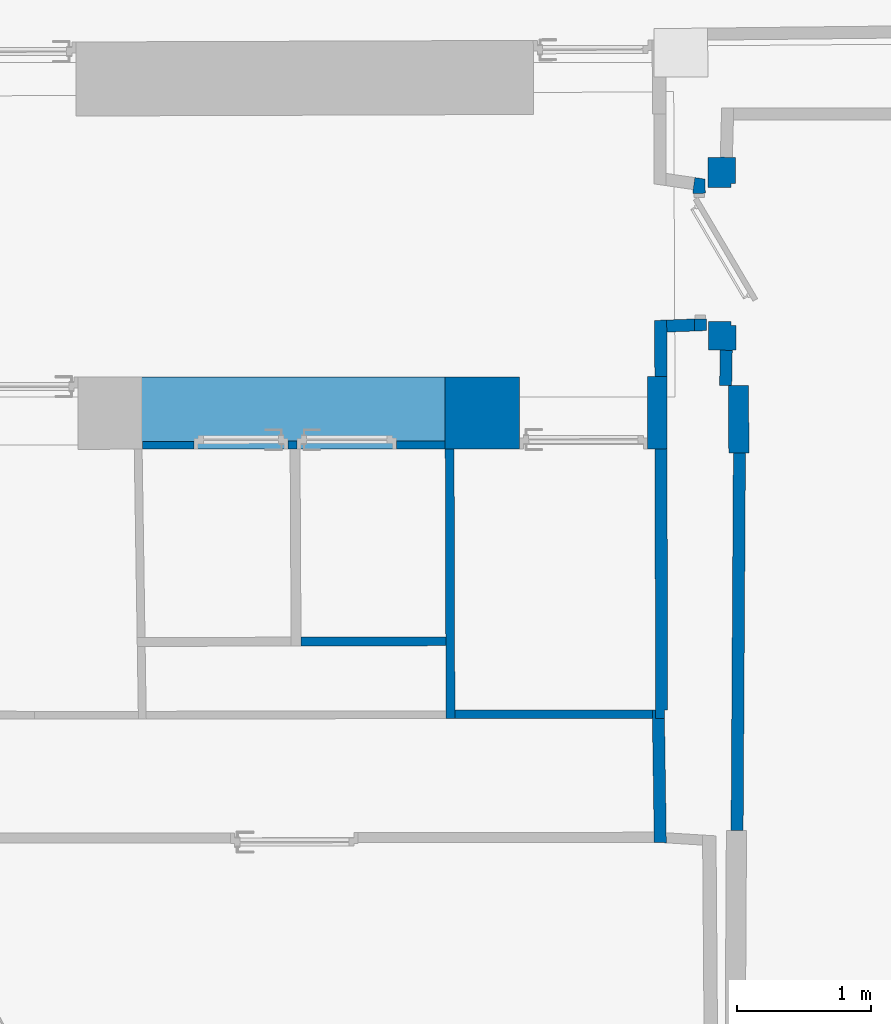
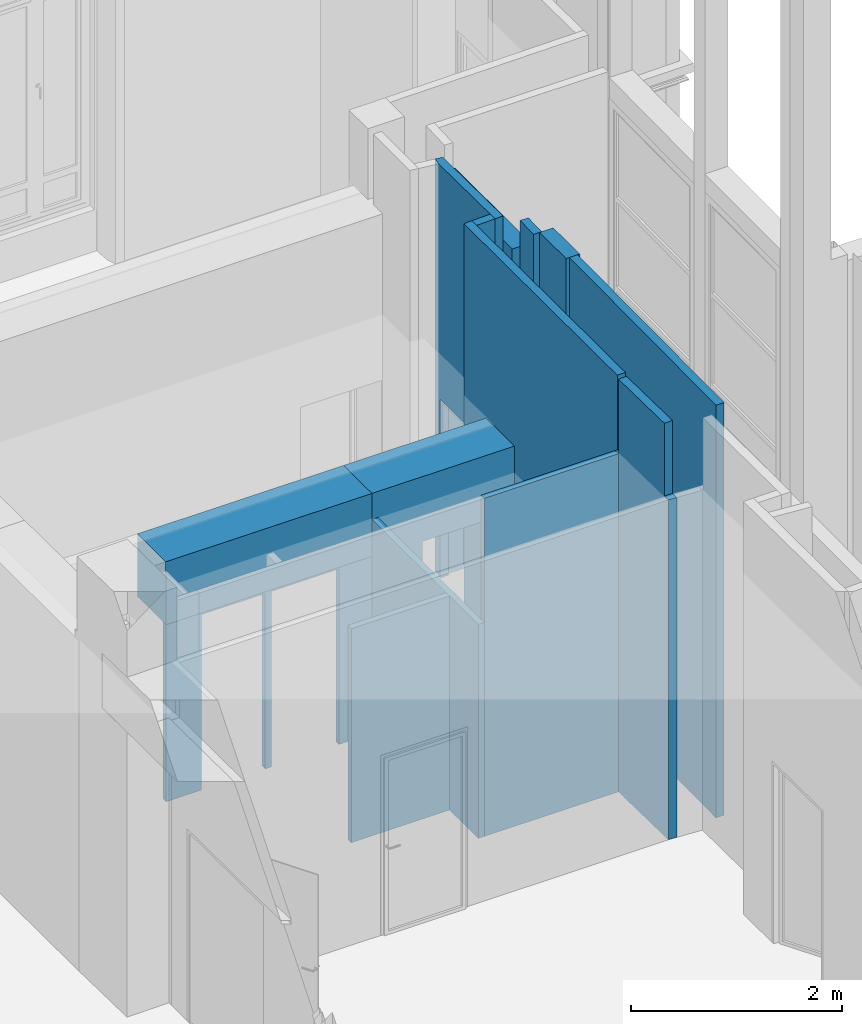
# One storey, part 16 of 97: 14 walls, 5 openings.
"""IFC2X3 building model written with IfcOpenShell, lengths in centimetres."""

import ifcopenshell
import ifcopenshell.guid

model = None  # the IFC model being written
_history = None  # IfcOwnerHistory: only IFC2X3 demands one
_inside = {}  # id of a spatial element -> (the spatial element, [elements in it])
_under = {}  # id of a project, library or spatial element -> (it, [spatial elements below it])
_declared = {}  # id of a project -> (the project, [libraries it declares])
_typed = {}  # id of a type object -> (the type object, [elements of that type])
_made_of = {}  # id of a material, layer set ... -> (it, [elements and type objects made of it])


def new_model(schema):
    """Start an empty IFC model of exactly this schema.

    Asked for "IFC4X3", IfcOpenShell would pick the latest addendum, in which some entities
    have other attributes; the version numbers below select the first issue.
    IFC2X3 requires an IfcOwnerHistory on every rooted entity: one is made here for all.
    """
    global model, _history
    if schema == "IFC4X3":
        model = ifcopenshell.file(schema_version=(4, 3, 0, 0))
    else:
        model = ifcopenshell.file(schema=schema)
    _inside.clear()
    _under.clear()
    _declared.clear()
    _typed.clear()
    _made_of.clear()
    _history = None
    if model.schema == "IFC2X3":
        org = make("IfcOrganization", Name="unknown")
        user = make(
            "IfcPersonAndOrganization",
            ThePerson=make("IfcPerson", FamilyName="unknown"),
            TheOrganization=org,
        )
        app = make(
            "IfcApplication",
            ApplicationDeveloper=org,
            Version="unknown",
            ApplicationFullName="unknown",
            ApplicationIdentifier="unknown",
        )
        _history = make(
            "IfcOwnerHistory",
            OwningUser=user,
            OwningApplication=app,
            ChangeAction="ADDED",
            CreationDate=0,
        )
    return model


def make(cls, **values):
    """One entity of the class cls with the attributes given. An attribute that is None is left unset."""
    return model.create_entity(
        cls, **{name: value for name, value in values.items() if value is not None}
    )


def entity(cls, *values):
    """Any entity or typed value of the class cls, its attributes in the order of the schema. None: left unset."""
    e = model.create_entity(cls)
    for i, value in enumerate(values):
        if value is not None:
            e[i] = value
    return e


def rooted(cls, **values):
    """An entity with a GlobalId (a new one), such as an element, a storey or a relation."""
    return make(cls, GlobalId=ifcopenshell.guid.new(), OwnerHistory=_history, **values)


def si_unit(unit_type, name, prefix=None):
    """IfcSIUnit, for example si_unit("LENGTHUNIT", "METRE", prefix="MILLI")."""
    return make("IfcSIUnit", UnitType=unit_type, Prefix=prefix, Name=name)


def converted_unit(unit_type, name, factor, base, dimensions=None, offset=None):
    """IfcConversionBasedUnit, such as the inch: factor (a typed value) times the base unit."""
    return make(
        "IfcConversionBasedUnit"
        if offset is None
        else "IfcConversionBasedUnitWithOffset",
        ConversionOffset=offset,
        Dimensions=None
        if dimensions is None
        else entity("IfcDimensionalExponents", *dimensions),
        UnitType=unit_type,
        Name=name,
        ConversionFactor=make(
            "IfcMeasureWithUnit", ValueComponent=factor, UnitComponent=base
        ),
    )


def assignment(units):
    """IfcUnitAssignment: the units of a project."""
    return None if units is None else make("IfcUnitAssignment", Units=units)


def point(xyz):
    """IfcCartesianPoint."""
    return None if xyz is None else make("IfcCartesianPoint", Coordinates=xyz)


def direction(xyz):
    """IfcDirection."""
    return None if xyz is None else make("IfcDirection", DirectionRatios=xyz)


def frame(location, z_axis=None, x_axis=None):
    """IfcAxis2Placement3D, a coordinate frame: its origin and axes. An axis left out is left unset."""
    return make(
        "IfcAxis2Placement3D",
        Location=point(location),
        Axis=direction(z_axis),
        RefDirection=direction(x_axis),
    )


def frame_2d(location, x_axis=None):
    """IfcAxis2Placement2D, a coordinate frame in the plane: its origin and x axis."""
    return make(
        "IfcAxis2Placement2D", Location=point(location), RefDirection=direction(x_axis)
    )


def origin():
    """The frame at (0, 0, 0) with its axes left unset."""
    return frame((0.0, 0.0, 0.0))


def origin_with_axes():
    """The frame at (0, 0, 0) with the z axis (0, 0, 1) and the x axis (1, 0, 0) written out."""
    return frame((0.0, 0.0, 0.0), z_axis=(0.0, 0.0, 1.0), x_axis=(1.0, 0.0, 0.0))


def origin_2d_with_axis():
    """The frame at (0, 0) in the plane with the x axis (1, 0) written out."""
    return frame_2d((0.0, 0.0), x_axis=(1.0, 0.0))


def place(relative_to, where):
    """IfcLocalPlacement: puts the frame where relative to a parent placement (None: the world)."""
    return make(
        "IfcLocalPlacement", PlacementRelTo=relative_to, RelativePlacement=where
    )


def context(
    kind, dimensions, precision=None, world=None, true_north=None, identifier=None
):
    """IfcGeometricRepresentationContext, for example the 3D "Model" context."""
    return make(
        "IfcGeometricRepresentationContext",
        ContextIdentifier=identifier,
        ContextType=kind,
        CoordinateSpaceDimension=dimensions,
        Precision=precision,
        WorldCoordinateSystem=world,
        TrueNorth=true_north,
    )


def subcontext(parent, identifier, kind, view, scale=None):
    """IfcGeometricRepresentationSubContext, for example "Body" below "Model"."""
    return make(
        "IfcGeometricRepresentationSubContext",
        ContextIdentifier=identifier,
        ContextType=kind,
        ParentContext=parent,
        TargetScale=scale,
        TargetView=view,
    )


def project(units=None, contexts=None):
    """IfcProject with its units and contexts."""
    return rooted(
        "IfcProject",
        Name="project",
        RepresentationContexts=contexts,
        UnitsInContext=assignment(units),
    )


def spatial(cls, under=None, at=None, **own):
    """A site, building, storey or space (cls), placed at a placement, below another one or the project."""
    s = rooted(cls, ObjectPlacement=at, **own)
    if under is not None:
        _under.setdefault(under.id(), (under, []))[1].append(s)
    return s


def polyline(points):
    """IfcPolyline through the points."""
    return make("IfcPolyline", Points=[point(p) for p in points])


def profile(cls, at=None, kind="AREA", **sizes):
    """A parametric profile (cls). Its sizes go by their IFC names, for example OverallWidth=200.0."""
    return make(cls, ProfileType=kind, Position=at, **sizes)


def rectangle(**sizes):
    """IfcRectangleProfileDef."""
    return profile("IfcRectangleProfileDef", **sizes)


def outline(outer, holes=None, kind="AREA"):
    """IfcArbitraryClosedProfileDef: a profile drawn as a closed curve; with holes, ...WithVoids."""
    if holes is None:
        return make("IfcArbitraryClosedProfileDef", ProfileType=kind, OuterCurve=outer)
    return make(
        "IfcArbitraryProfileDefWithVoids",
        ProfileType=kind,
        OuterCurve=outer,
        InnerCurves=holes,
    )


def extrude(swept, where, along, depth):
    """IfcExtrudedAreaSolid: the profile swept, set in the frame where, extruded along a direction by depth."""
    return make(
        "IfcExtrudedAreaSolid",
        SweptArea=swept,
        Position=where,
        ExtrudedDirection=direction(along),
        Depth=depth,
    )


def clip(a, b, op="DIFFERENCE"):
    """IfcBooleanClippingResult: the solid a cut by the half space b."""
    return make(
        "IfcBooleanClippingResult", Operator=op, FirstOperand=a, SecondOperand=b
    )


def bounded_halfspace(plane, agree, where, boundary):
    """IfcPolygonalBoundedHalfSpace: a half space limited to a polygon's prism."""
    return make(
        "IfcPolygonalBoundedHalfSpace",
        BaseSurface=make("IfcPlane", Position=plane),
        AgreementFlag=agree,
        Position=where,
        PolygonalBoundary=boundary,
    )


def faces_of(points, faces, orient=None, outer=None):
    """IfcFace entities. A face is a list of loops; a loop is a list of indices into points, from 0.

    orient and outer hold one flag for each loop. By default every Orientation is true, the
    first loop of a face is its IfcFaceOuterBound and the others are IfcFaceBound.
    """
    made = []
    for i, loops in enumerate(faces):
        bounds = []
        for j, loop in enumerate(loops):
            is_outer = j == 0 if outer is None else outer[i][j]
            bounds.append(
                make(
                    "IfcFaceOuterBound" if is_outer else "IfcFaceBound",
                    Bound=make("IfcPolyLoop", Polygon=[points[k] for k in loop]),
                    Orientation=True if orient is None else orient[i][j],
                )
            )
        made.append(make("IfcFace", Bounds=bounds))
    return made


def faceted_brep(points, faces, orient=None, outer=None, voids=None):
    """IfcFacetedBrep: a solid bounded by flat faces; with voids (closed shells), ...WithVoids."""
    shared = [point(p) for p in points]
    hull = make("IfcClosedShell", CfsFaces=faces_of(shared, faces, orient, outer))
    if voids is None:
        return make("IfcFacetedBrep", Outer=hull)
    return make(
        "IfcFacetedBrepWithVoids",
        Outer=hull,
        Voids=[
            make(cls, CfsFaces=faces_of(shared, fs, o, b)) for cls, fs, o, b in voids
        ],
    )


def shape(context_of_items, identifier, shape_type, items):
    """IfcShapeRepresentation: the items that make up one representation, for example the "Body"."""
    return make(
        "IfcShapeRepresentation",
        ContextOfItems=context_of_items,
        RepresentationIdentifier=identifier,
        RepresentationType=shape_type,
        Items=items,
    )


def material(Name=None, Category=None):
    """IfcMaterial."""
    return make("IfcMaterial", Name=Name, Category=Category)


def layer(
    of_material, thickness, ventilated=None, Name=None, Category=None, Priority=None
):
    """IfcMaterialLayer: one layer of a wall or slab, of a material (None: an air gap)."""
    return make(
        "IfcMaterialLayer",
        Material=of_material,
        LayerThickness=thickness,
        IsVentilated=ventilated,
        Name=Name,
        Category=Category,
        Priority=Priority,
    )


def layer_set(layers, Name=None):
    """IfcMaterialLayerSet."""
    return make("IfcMaterialLayerSet", MaterialLayers=layers, LayerSetName=Name)


def layer_usage(for_layer_set, set_direction, sense, offset, extent=None):
    """IfcMaterialLayerSetUsage: how a layer set lies in its element."""
    return make(
        "IfcMaterialLayerSetUsage",
        ForLayerSet=for_layer_set,
        LayerSetDirection=set_direction,
        DirectionSense=sense,
        OffsetFromReferenceLine=offset,
        ReferenceExtent=extent,
    )


def made_of(thing, what):
    """Note that an element or type object is made of a material, layer set ...; save() writes the relation."""
    if what is not None:
        _made_of.setdefault(what.id(), (what, []))[1].append(thing)
    return thing


def type_object(cls, material=None, **own):
    """A type object (cls), such as IfcWallType, which elements share."""
    return made_of(rooted(cls, **own), material)


def element(
    cls,
    number,
    at=None,
    inside=None,
    cuts=None,
    type_object=None,
    material=None,
    context=None,
    identifier="Body",
    shape_type=None,
    held_by="IfcProductDefinitionShape",
    body=None,
    shapes=None,
    **own,
):
    """One element of the class cls, such as IfcWall. Its Tag is "e" and its number.

    at: its placement. inside: the storey or other place that contains it. cuts: it is an
    opening in that element (IfcRelVoidsElement). A single representation is given by context,
    identifier, shape_type and body (its items); several are given by shapes. held_by: the class
    of the entity that holds the representations. save() writes the other relations.
    """
    e = rooted(cls, Tag="e%d" % number, ObjectPlacement=at, **own)
    if body is not None:
        shapes = [shape(context, identifier, shape_type, body)]
    if shapes is not None:
        e.Representation = make(held_by, Representations=shapes)
    if inside is not None:
        _inside.setdefault(inside.id(), (inside, []))[1].append(e)
    if cuts is not None:
        rooted(
            "IfcRelVoidsElement", RelatingBuildingElement=cuts, RelatedOpeningElement=e
        )
    if type_object is not None:
        _typed.setdefault(type_object.id(), (type_object, []))[1].append(e)
    return made_of(e, material)


def aggregate(whole, parts):
    """IfcRelAggregates: a whole, such as a stair, and the parts it consists of."""
    return rooted("IfcRelAggregates", RelatingObject=whole, RelatedObjects=parts)


def save(model, path):
    """Write the relations noted so far, then the file.

    IfcRelAggregates (storeys below a building ...), IfcRelContainedInSpatialStructure (elements
    in a storey), IfcRelDefinesByType, IfcRelAssociatesMaterial and IfcRelDeclares: one each for
    every whole, place, type object, material and project.
    """
    for whole, parts in _under.values():
        aggregate(whole, parts)
    for where, things in _inside.values():
        rooted(
            "IfcRelContainedInSpatialStructure",
            RelatedElements=things,
            RelatingStructure=where,
        )
    for kind, things in _typed.values():
        rooted("IfcRelDefinesByType", RelatedObjects=things, RelatingType=kind)
    for what, things in _made_of.values():
        rooted("IfcRelAssociatesMaterial", RelatedObjects=things, RelatingMaterial=what)
    for by, libraries in _declared.values():
        rooted("IfcRelDeclares", RelatingContext=by, RelatedDefinitions=libraries)
    model.write(path)


model = new_model("IFC2X3")

# Units and contexts
model_context = context("Model", 3, precision=0.0001, world=origin(), true_north=direction((0.225632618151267, 0.974212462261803, 0.0)))
body_context = subcontext(model_context, "Body", "Model", "MODEL_VIEW")
footprint_context = subcontext(model_context, "FootPrint", "Model", "MODEL_VIEW")
profile_context = subcontext(model_context, "Profile", "Model", "MODEL_VIEW")
ifc_project = project(units=[si_unit("LENGTHUNIT", "METRE", prefix="CENTI"), si_unit("AREAUNIT", "SQUARE_METRE", prefix="CENTI"), si_unit("VOLUMEUNIT", "CUBIC_METRE", prefix="CENTI"), converted_unit("PLANEANGLEUNIT", "DEGREE", entity("IfcRatioMeasure", 0.0174532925), si_unit("PLANEANGLEUNIT", "RADIAN"), dimensions=[0, 0, 0, 0, 0, 0, 0])], contexts=[model_context])

# Site, building, storey
site_placement = place(None, origin_with_axes())
site = spatial("IfcSite", under=ifc_project, at=site_placement, Name="Default Site", CompositionType="ELEMENT")
building_placement = place(site_placement, origin_with_axes())
building = spatial("IfcBuilding", under=site, at=building_placement, Name="Default Building", CompositionType="ELEMENT")
storey_placement = place(building_placement, origin_with_axes())
storey = spatial("IfcBuildingStorey", under=building, at=storey_placement, Name="Rez-de-chaussée", CompositionType="ELEMENT", Elevation=0.0)

# Walls
ifc_material = material(Name="<aucun>")
ifc_layer_1 = layer(ifc_material, 9.0)
ifc_layer_set_1 = layer_set([ifc_layer_1], Name="default")
ifc_layer_usage_1 = layer_usage(ifc_layer_set_1, "AXIS2", "POSITIVE", -4.5)
wall_type_1 = type_object("IfcWallType", Name="default 90", PredefinedType="NOTDEFINED", material=ifc_layer_set_1)
wall_1_placement = place(storey_placement, frame((881.722137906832, -44.144334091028, 0.0128503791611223), z_axis=(0.0, 0.0, 1.0), x_axis=(0.0176897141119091, 0.99984352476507, 0.0)))
element("IfcWallStandardCase", 1, at=wall_1_placement, inside=storey, type_object=wall_type_1, material=ifc_layer_usage_1, Name="Enveloppe 367625", context=body_context, shape_type="Clipping", body=[
    clip(extrude(rectangle(XDim=26.3196694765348, YDim=8.9999999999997, at=origin_2d_with_axis()), frame((13.1598347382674, 0.0, 0.0), z_axis=(0.0, 0.0, 1.0), x_axis=(1.0, 7.25114412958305e-16, 0.0)), (0.0, 0.0, 1.0), 477.795358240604), bounded_halfspace(frame((26.2980305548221, 4.50000000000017, 447.782507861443), z_axis=(0.0, 0.0, 1.0), x_axis=(1.0, -7.78228176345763e-13, 0.0)), True, frame((26.2980305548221, 4.50000000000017, 447.782507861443), z_axis=(0.0, 0.0, 1.0), x_axis=(1.0, 0.0, 0.0)), polyline([(5.55111512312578e-15, -8.99999999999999), (1.11022302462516e-14, 1.77635683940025e-13), (0.0216389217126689, 1.77635683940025e-13), (0.0216389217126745, -8.99999999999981), (5.55111512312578e-15, -8.99999999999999)]))),
])
ifc_layer_usage_2 = layer_usage(ifc_layer_set_1, "AXIS2", "POSITIVE", -4.5)
wall_2_placement = place(storey_placement, frame((837.229817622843, 0.138419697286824, 0.0128503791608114), z_axis=(0.0, 0.0, 1.0), x_axis=(0.999283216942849, 0.0378556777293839, 0.0)))
element("IfcWallStandardCase", 2, at=wall_2_placement, inside=storey, type_object=wall_type_1, material=ifc_layer_usage_2, Name="Enveloppe 721798", context=body_context, shape_type="SweptSolid", body=[
    extrude(outline(polyline([(0.831867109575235, 4.49999999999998), (0.51223675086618, -4.50000000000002), (21.1217969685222, -4.50000000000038), (21.3808275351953, 4.49999999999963), (0.831867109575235, 4.49999999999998)])), origin_with_axes(), (0.0, 0.0, 1.0), 477.795358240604),
])

# Wall, opening
ifc_layer_usage_3 = layer_usage(ifc_layer_set_1, "AXIS2", "POSITIVE", -4.5)
wall_3_placement = place(storey_placement, frame((862.964533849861, 1.11332361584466, 0.0128503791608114), z_axis=(0.0, 0.0, 1.0), x_axis=(-0.00909136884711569, 0.999958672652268, 0.0)))
wall_3 = element("IfcWallStandardCase", 3, at=wall_3_placement, inside=storey, type_object=wall_type_1, material=ifc_layer_usage_3, Name="Enveloppe 720961", context=body_context, shape_type="SweptSolid", body=[
    extrude(outline(polyline([(100.659972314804, 4.50000000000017), (-4.63137869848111, 4.49999999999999), (-4.37234813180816, -4.49999999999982), (108.374289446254, -4.49999999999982), (109.554095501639, 3.12356520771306), (100.659972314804, 4.50000000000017)])), origin_with_axes(), (0.0, 0.0, 1.0), 477.795358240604),
])
opening_1_placement = place(wall_3_placement, frame((4.40398725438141, 0.0, 0.0), z_axis=(0.0, 0.0, 1.0), x_axis=(1.0, -1.54390389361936e-16, 0.0)))
cartesian_point_1 = entity("IfcCartesianPoint", [6.93889390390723e-16, 0.0, 207.0])
cartesian_point_2 = entity("IfcCartesianPoint", [93.4553855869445, 4.49999999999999])
element("IfcOpeningElement", 4, at=opening_1_placement, cuts=wall_3, Name="4294966351_11", ObjectType="Opening", shapes=[
    shape(body_context, "Body", "SweptSolid", [extrude(outline(polyline([(0.0, 207.0), (0.0, 0.0), (93.4553855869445, 0.0), (93.4553855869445, 207.0), (0.0, 207.0)])), frame((0.0, 14.5, 0.0), z_axis=(0.0, -1.0, 0.0), x_axis=(1.0, 0.0, 0.0)), (0.0, 0.0, 1.0), 29.0)]),
    shape(profile_context, "Profile", "GeometricCurveSet", [entity("IfcGeometricCurveSet", [entity("IfcPolyline", [cartesian_point_1, entity("IfcCartesianPoint", [6.93889390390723e-16, 0.0, 0.0]), entity("IfcCartesianPoint", [93.4553855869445, 0.0, 0.0]), entity("IfcCartesianPoint", [93.4553855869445, 0.0, 207.0]), cartesian_point_1])])]),
    shape(footprint_context, "FootPrint", "GeometricCurveSet", [entity("IfcGeometricCurveSet", [entity("IfcPolyline", [cartesian_point_2, entity("IfcCartesianPoint", [0.0, 4.49999999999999]), entity("IfcCartesianPoint", [1.38777878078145e-15, -4.49999999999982]), entity("IfcCartesianPoint", [93.4553855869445, -4.49999999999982]), cartesian_point_2])])]),
])

# Walls
ifc_layer_usage_4 = layer_usage(ifc_layer_set_1, "AXIS2", "POSITIVE", -4.5)
wall_4_placement = place(storey_placement, frame((832.985224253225, -376.510856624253, 0.0128503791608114), z_axis=(0.0, 0.0, 1.0), x_axis=(-0.0150080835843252, 0.999887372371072, 0.0)))
element("IfcWallStandardCase", 5, at=wall_4_placement, inside=storey, type_object=wall_type_1, material=ifc_layer_usage_4, Name="Enveloppe 11562", context=body_context, shape_type="Clipping", body=[
    clip(clip(clip(extrude(outline(polyline([(91.0959762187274, 4.50000000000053), (-7.43298393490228, 4.50000000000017), (-7.46210639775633, 2.35132997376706), (-7.99660458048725, -4.49999999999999), (84.8884152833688, -4.49999999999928), (84.8884152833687, 2.11986726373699), (91.0625123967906, 2.04180099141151), (91.0959762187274, 4.50000000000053)])), origin_with_axes(), (0.0, 0.0, 1.0), 477.795358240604), bounded_halfspace(frame((84.8884152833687, 2.11986726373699, 391.395358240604), z_axis=(0.0, 0.0, 1.0), x_axis=(1.10883524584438e-14, -1.0, 0.0)), True, frame((84.8884152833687, 2.11986726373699, 391.395358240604), z_axis=(0.0, 0.0, 1.0), x_axis=(1.0, 0.0, 0.0)), polyline([(-0.172363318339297, -6.61986726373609), (-0.172363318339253, 0.00217938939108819), (4.44089209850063e-14, 0.0), (1.33226762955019e-13, -6.61986726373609), (-0.172363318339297, -6.61986726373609)]))), bounded_halfspace(frame((91.0959762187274, 4.50000000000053, 391.395358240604), z_axis=(0.0, 0.0, -1.0), x_axis=(-1.0, -5.93275428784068e-16, 0.0)), True, frame((91.0959762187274, 4.50000000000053, 391.395358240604), z_axis=(0.0, 0.0, 1.0), x_axis=(1.0, 0.0, 0.0)), polyline([(-6.20756093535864, -2.38013273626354), (-0.0334638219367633, -2.45819900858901), (4.44089209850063e-14, 0.0), (-6.20756093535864, 0.0), (-6.20756093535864, -2.38013273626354)]))), bounded_halfspace(frame((-7.46210639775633, 2.35132997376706, 393.395358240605), z_axis=(0.0, 0.0, -1.0), x_axis=(-0.0777774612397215, -0.996970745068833, 0.0)), True, frame((-7.46210639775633, 2.35132997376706, 393.395358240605), z_axis=(0.0, 0.0, 1.0), x_axis=(1.0, 0.0, 0.0)), polyline([(-0.53449818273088, -6.85132997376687), (7.46210639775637, -6.85132997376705), (7.46210639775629, 2.14867002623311), (0.029122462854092, 2.14867002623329), (4.44089209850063e-14, 1.77635683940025e-13), (-0.53449818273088, -6.85132997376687)]))),
])
ifc_layer_usage_5 = layer_usage(ifc_layer_set_1, "AXIS2", "POSITIVE", -4.5)
wall_5_placement = place(storey_placement, frame((890.266698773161, -375.240380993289, 0.0128503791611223), z_axis=(0.0, 0.0, 1.0), x_axis=(0.00615086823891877, 0.999981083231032, 0.0)))
element("IfcWallStandardCase", 6, at=wall_5_placement, inside=storey, type_object=wall_type_1, material=ifc_layer_usage_5, Name="Enveloppe 366967", context=body_context, shape_type="Clipping", body=[
    clip(extrude(outline(polyline([(-4.44089209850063e-14, 4.50000000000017), (0.0, -4.50000000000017), (281.114043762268, -4.49999999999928), (281.004879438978, 4.50000000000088), (-4.44089209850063e-14, 4.50000000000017)])), origin_with_axes(), (0.0, 0.0, 1.0), 477.795358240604), bounded_halfspace(frame((0.0, -4.50000000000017, 447.782507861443), z_axis=(0.0, 0.0, 1.0), x_axis=(0.0, 1.0, 0.0)), True, frame((0.0, -4.50000000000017, 447.782507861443), z_axis=(0.0, 0.0, 1.0), x_axis=(1.0, 0.0, 0.0)), polyline([(0.0, -1.77635683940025e-13), (-8.88178419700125e-14, 9.00000000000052), (0.095518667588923, 9.00000000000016), (0.0955186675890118, 3.5527136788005e-13), (0.0, -1.77635683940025e-13)]))),
])
ifc_layer_usage_6 = layer_usage(ifc_layer_set_1, "AXIS2", "POSITIVE", -4.5)
wall_6_placement = place(storey_placement, frame((834.076966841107, -285.478600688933, 0.0128503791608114), z_axis=(0.0, 0.0, 1.0), x_axis=(-0.00236515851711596, 0.999997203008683, 0.0)))
element("IfcWallStandardCase", 7, at=wall_6_placement, inside=storey, type_object=wall_type_1, material=ifc_layer_usage_6, Name="Enveloppe 10338", context=body_context, shape_type="Clipping", body=[
    clip(clip(clip(clip(extrude(outline(polyline([(289.815823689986, 4.49999999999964), (233.07623812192, 4.49999999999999), (-6.34696676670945, 4.50040769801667), (-6.26324420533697, -2.12151736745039), (4.44089209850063e-14, -2.04232390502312), (8.88178419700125e-14, -4.49999999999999), (233.07623812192, -4.49999999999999), (290.135454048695, -4.50000000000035), (289.815823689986, 4.49999999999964)])), frame((0.0, 0.0, 2.71050543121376e-18), z_axis=(0.0, 0.0, 1.0), x_axis=(1.0, 0.0, 0.0)), (0.0, 0.0, 1.0), 477.795358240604), bounded_halfspace(frame((233.07623812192, 4.49999999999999, 277.995358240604), z_axis=(0.0, 0.0, 1.0), x_axis=(-2.46677678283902e-15, -1.0, 0.0)), True, frame((233.07623812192, 4.49999999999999, 277.995358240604), z_axis=(0.0, 0.0, 1.0), x_axis=(1.0, 0.0, 0.0)), polyline([(-38.7516481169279, -8.99999999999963), (-38.738455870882, 1.77635683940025e-13), (0.0, 0.0), (0.0, -8.99999999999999), (-38.7516481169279, -8.99999999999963)]))), bounded_halfspace(frame((233.07623812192, 4.49999999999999, 277.995358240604), z_axis=(0.0, 0.0, 1.0), x_axis=(1.0, -1.47885176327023e-15, 0.0)), True, frame((233.07623812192, 4.49999999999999, 277.995358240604), z_axis=(0.0, 0.0, 1.0), x_axis=(1.0, 0.0, 0.0)), polyline([(-4.44089209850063e-14, -8.99999999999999), (0.0, 0.0), (14.8790391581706, 0.0), (14.8658469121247, -9.00000000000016), (-4.44089209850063e-14, -8.99999999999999)]))), bounded_halfspace(frame((0.0, 4.49999999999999, 391.395358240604), z_axis=(0.0, 0.0, -1.0), x_axis=(-1.0, 4.00764491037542e-15, 0.0)), True, frame((0.0, 4.49999999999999, 391.395358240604), z_axis=(0.0, 0.0, 1.0), x_axis=(1.0, 0.0, 0.0)), polyline([(-6.17459063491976, 0.0), (-6.09089466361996, -6.61933815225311), (-4.44089209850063e-14, -6.54232390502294), (-4.44089209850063e-14, 0.0), (-6.17459063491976, 0.0)]))), bounded_halfspace(frame((-6.26324420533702, -2.12151736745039, 391.395358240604), z_axis=(0.0, 0.0, -1.0), x_axis=(0.999920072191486, 0.0126431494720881, 0.0)), True, frame((-6.26324420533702, -2.12151736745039, 391.395358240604), z_axis=(0.0, 0.0, 1.0), x_axis=(1.0, 0.0, 0.0)), polyline([(-0.0837235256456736, 6.62151736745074), (0.0, 0.0), (0.172349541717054, 0.00217921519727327), (0.088653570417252, 6.62151736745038), (-0.0837235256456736, 6.62151736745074)]))),
])
ifc_layer_2 = layer(ifc_material, 15.0)
ifc_layer_set_2 = layer_set([ifc_layer_2], Name="default")
ifc_layer_usage_7 = layer_usage(ifc_layer_set_2, "AXIS2", "POSITIVE", -7.5)
wall_type_2 = type_object("IfcWallType", Name="default 150", PredefinedType="NOTDEFINED", material=ifc_layer_set_2)
wall_7_placement = place(storey_placement, frame((891.563778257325, -94.1888166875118, 0.0128503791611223), z_axis=(0.0, 0.0, 1.0), x_axis=(-0.00597783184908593, 0.99998213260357, 0.0)))
element("IfcWallStandardCase", 8, at=wall_7_placement, inside=storey, type_object=wall_type_2, material=ifc_layer_usage_7, Name="Enveloppe 367336", context=body_context, shape_type="SweptSolid", body=[
    extrude(outline(polyline([(50.054072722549, 7.50000000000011), (-2.22044604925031e-14, 7.49999999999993), (4.44089209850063e-14, -7.49999999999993), (49.9959217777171, -7.49999999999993), (49.9959217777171, 5.04356739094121), (50.054072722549, 7.50000000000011)])), origin_with_axes(), (0.0, 0.0, 1.0), 477.795358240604),
])

# Wall, opening
ifc_layer_3 = layer(ifc_material, 20.5)
ifc_layer_set_3 = layer_set([ifc_layer_3], Name="default")
ifc_layer_usage_8 = layer_usage(ifc_layer_set_3, "AXIS2", "POSITIVE", -10.25)
wall_type_3 = type_object("IfcWallType", Name="default 205", PredefinedType="NOTDEFINED", material=ifc_layer_set_3)
wall_8_placement = place(storey_placement, frame((879.193913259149, -17.7672531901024, 0.0128503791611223), z_axis=(0.0, 0.0, 1.0), x_axis=(-0.00236515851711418, 0.999997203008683, 0.0)))
wall_8 = element("IfcWallStandardCase", 9, at=wall_8_placement, inside=storey, type_object=wall_type_3, material=ifc_layer_usage_8, Name="Enveloppe 367501", context=body_context, shape_type="SweptSolid", body=[
    extrude(outline(polyline([(143.378647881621, 10.2500000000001), (1.11022302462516e-14, 10.2500000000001), (5.55111512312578e-15, 1.50587078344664), (-0.180490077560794, -7.49231921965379), (0.000344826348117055, -7.49594039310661), (1.11022302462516e-14, -10.2499999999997), (143.378647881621, -10.2499999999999), (143.378647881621, -7.91011115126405), (143.639640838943, 1.0861037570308), (143.378647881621, 1.09367553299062), (143.378647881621, 10.2500000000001)])), origin_with_axes(), (0.0, 0.0, 1.0), 447.782507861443),
])
opening_2_placement = place(wall_8_placement, frame((18.4116374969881, -1.13686837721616e-13, -1.11022302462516e-14), z_axis=(0.0, 0.0, 1.0), x_axis=(-1.0, 6.85215773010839e-17, 0.0)))
cartesian_point_3 = entity("IfcCartesianPoint", [-1.45716771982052e-14, 0.0, 210.890048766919])
cartesian_point_4 = entity("IfcCartesianPoint", [-105.694207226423, -10.2500000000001])
element("IfcOpeningElement", 10, at=opening_2_placement, cuts=wall_8, Name="Baie 722380", ObjectType="Opening", shapes=[
    shape(body_context, "Body", "Brep", [faceted_brep([(-3.0000000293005, -30.2499996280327, 210.890055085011), (-102.694204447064, -30.2499996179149, 210.890055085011), (-102.694204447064, -30.2499996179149, -4.6290749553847e-10), (-3.0000000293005, -30.2499996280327, -4.6290749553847e-10), (-7.10717075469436e-09, 30.2499901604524, -4.6290749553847e-10), (-105.694204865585, 30.2499901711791, -4.6290749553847e-10), (-105.694204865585, 30.2499901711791, 210.890055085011), (-7.10717075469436e-09, 30.2499901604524, 210.890055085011), (-3.00000002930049, -30.2499996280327, -4.6290749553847e-10), (-3.00000002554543, 6.74999704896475, -4.62907495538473e-10), (-3.00000002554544, 6.74999704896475, 210.890055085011), (-2.9999999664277, 6.74999704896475, 210.890055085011), (-2.9999999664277, 6.74999704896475, -4.6290749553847e-10), (-1.14963519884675e-07, 6.74999704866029, -4.62907495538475e-10), (-1.14963519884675e-07, 6.74999704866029, 210.890055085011), (-1.14963523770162e-07, 6.74995876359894, 210.890055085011), (-1.14963512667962e-07, 6.74995876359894, -4.6290749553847e-10), (-1.12578533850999e-07, 30.2499901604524, -4.62907495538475e-10), (-1.12578544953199e-07, 30.2499901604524, 210.890055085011), (-102.694204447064, -30.2499553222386, -4.6290749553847e-10), (-102.694205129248, 6.75004135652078, -4.6290749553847e-10), (-105.694210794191, 6.74998428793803, -4.6290749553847e-10), (-105.694204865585, 30.2500156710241, -4.6290749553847e-10), (-1.14963523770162e-07, 6.74995876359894, -4.6290749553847e-10), (-102.694204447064, -30.2499553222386, 210.890055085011), (-102.694204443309, 6.75004135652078, 210.890055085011), (-102.694204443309, 6.75004135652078, -4.62907495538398e-10), (-102.694205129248, 6.75004135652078, 210.890055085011), (-105.694210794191, 6.75004135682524, 210.890055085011), (-105.694210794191, 6.75004135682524, -4.62907495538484e-10), (-105.694210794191, 6.74998428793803, 210.890055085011), (-105.694210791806, 30.2500156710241, 210.890055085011), (-105.694210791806, 30.2500156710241, -4.62907495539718e-10), (-105.694204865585, 30.2500156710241, 210.890055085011)], [[[0, 1, 2, 3]], [[4, 5, 6, 7]], [[0, 8, 9, 10]], [[11, 12, 13, 14]], [[15, 16, 17, 18]], [[3, 19, 20, 21, 22, 4, 23, 12]], [[19, 24, 25, 26]], [[20, 27, 28, 29]], [[21, 30, 31, 32]], [[11, 15, 7, 33, 30, 27, 24, 0]]])]),
    shape(profile_context, "Profile", "GeometricCurveSet", [entity("IfcGeometricCurveSet", [entity("IfcPolyline", [cartesian_point_3, entity("IfcCartesianPoint", [-6.93889390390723e-16, 0.0, 0.0]), entity("IfcCartesianPoint", [-105.694207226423, 0.0, 0.0]), entity("IfcCartesianPoint", [-105.694207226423, 0.0, 210.890048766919]), cartesian_point_3])])]),
    shape(footprint_context, "FootPrint", "GeometricCurveSet", [entity("IfcGeometricCurveSet", [entity("IfcPolyline", [cartesian_point_4, entity("IfcCartesianPoint", [0.0, -10.2499999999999]), entity("IfcCartesianPoint", [-1.38777878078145e-15, 10.2499999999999]), entity("IfcCartesianPoint", [-105.694207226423, 10.2499999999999]), cartesian_point_4])])]),
])

# Walls
ifc_layer_4 = layer(ifc_material, 6.6175895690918)
ifc_layer_set_4 = layer_set([ifc_layer_4], Name="default")
ifc_layer_usage_9 = layer_usage(ifc_layer_set_4, "AXIS2", "POSITIVE", -3.309)
wall_type_4 = type_object("IfcWallType", Name="default 66.175895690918", PredefinedType="NOTDEFINED", material=ifc_layer_set_4)
wall_9_placement = place(storey_placement, frame((562.046593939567, -234.665585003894, 0.0128503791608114), z_axis=(0.0, 0.0, 1.0), x_axis=(0.99999741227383, 0.00227496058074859, 0.0)))
element("IfcWallStandardCase", 11, at=wall_9_placement, inside=storey, type_object=wall_type_4, material=ifc_layer_usage_9, Name="Enveloppe 3314", context=body_context, shape_type="SweptSolid", body=[
    extrude(outline(polyline([(3.66109808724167, 3.30879467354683), (3.68100581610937, -3.30879467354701), (111.407412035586, -3.30879467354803), (111.403592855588, 3.30879467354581), (3.66109808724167, 3.30879467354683)])), frame((0.0, 0.0, -2.71050543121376e-18), z_axis=(0.0, 0.0, 1.0), x_axis=(1.0, 0.0, 0.0)), (0.0, 0.0, 1.0), 247.861599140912),
])
ifc_layer_usage_10 = layer_usage(ifc_layer_set_4, "AXIS2", "POSITIVE", -3.309)
wall_10_placement = place(storey_placement, frame((676.908342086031, -286.207687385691, 0.0128503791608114), z_axis=(0.0, 0.0, 1.0), x_axis=(-0.00285208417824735, 0.999995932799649, 0.0)))
element("IfcWallStandardCase", 12, at=wall_10_placement, inside=storey, type_object=wall_type_4, material=ifc_layer_usage_10, Name="Enveloppe 5701", context=body_context, shape_type="SweptSolid", body=[
    extrude(outline(polyline([(194.925545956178, 3.30879467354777), (55.2139883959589, 3.30879467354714), (-5.74675030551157, 3.30879467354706), (-5.75638384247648, -3.30879467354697), (55.2139883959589, -3.3087946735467), (194.912623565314, -3.30879467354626), (194.925545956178, 3.30879467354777)])), frame((0.0, 0.0, -2.71050543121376e-18), z_axis=(0.0, 0.0, 1.0), x_axis=(1.0, 0.0, 0.0)), (0.0, 0.0, 1.0), 247.861599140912),
])
ifc_layer_5 = layer(ifc_material, 6.25682640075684)
ifc_layer_set_5 = layer_set([ifc_layer_5], Name="default")
ifc_layer_usage_11 = layer_usage(ifc_layer_set_5, "AXIS2", "POSITIVE", -3.128)
wall_type_5 = type_object("IfcWallType", Name="default 62.5682640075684", PredefinedType="NOTDEFINED", material=ifc_layer_set_5)
wall_11_placement = place(storey_placement, frame((680.22852135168, -288.826201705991, 0.0128503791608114), z_axis=(0.0, 0.0, 1.0), x_axis=(0.999999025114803, 0.001396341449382, 0.0)))
element("IfcWallStandardCase", 13, at=wall_11_placement, inside=storey, type_object=wall_type_5, material=ifc_layer_usage_11, Name="Enveloppe 3415", context=body_context, shape_type="SweptSolid", body=[
    extrude(outline(polyline([(-0.00845703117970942, 3.1284249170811), (1.26991750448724e-09, -3.128412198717), (146.97897225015, -3.12841206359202), (146.8945452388, 3.12841310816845), (-0.00845703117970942, 3.1284249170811)])), origin_with_axes(), (0.0, 0.0, 1.0), 391.395358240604),
])

# Wall, opening
ifc_layer_6 = layer(ifc_material, 53.6174377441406)
ifc_layer_set_6 = layer_set([ifc_layer_6], Name="default")
ifc_layer_usage_12 = layer_usage(ifc_layer_set_6, "AXIS2", "POSITIVE", -26.809)
wall_type_6 = type_object("IfcWallType", Name="default 536.174377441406", PredefinedType="NOTDEFINED", material=ifc_layer_set_6)
wall_12_placement = place(storey_placement, frame((673.019506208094, -64.4836633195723, 0.0128503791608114), z_axis=(0.0, 0.0, 1.0), x_axis=(0.99999959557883, 0.000899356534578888, 0.0)))
wall_12 = element("IfcWallStandardCase", 14, at=wall_12_placement, inside=storey, type_object=wall_type_6, material=ifc_layer_usage_12, Name="Enveloppe 3292", context=body_context, shape_type="Clipping", body=[
    clip(clip(clip(extrude(outline(polyline([(-0.204700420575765, -26.808534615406), (165.073795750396, -26.8087187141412), (164.995203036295, 26.8087187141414), (-0.104700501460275, 26.8088128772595), (-0.104700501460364, -20.9587114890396), (-0.204700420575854, -20.9586215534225), (-0.204700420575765, -26.808534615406)])), origin_with_axes(), (0.0, 0.0, 1.0), 277.995358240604), bounded_halfspace(frame((-0.104700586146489, 26.8087187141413, 205.0), z_axis=(0.0, 0.0, 1.0), x_axis=(1.0, -2.71221847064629e-14, 0.0)), True, frame((-0.104700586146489, 26.8087187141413, 205.0), z_axis=(0.0, 0.0, 1.0), x_axis=(1.0, 0.0, 0.0)), polyline([(0.0, -47.7675243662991), (-8.88178419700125e-14, 5.55111512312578e-15), (0.104700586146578, 1.11022302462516e-14), (0.104700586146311, -47.7675243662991), (0.0, -47.7675243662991)]))), bounded_halfspace(frame((-0.204700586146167, -26.8087187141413, 205.0), z_axis=(0.0, 0.0, -1.0), x_axis=(1.0, 2.48921976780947e-15, 0.0)), True, frame((-0.204700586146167, -26.8087187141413, 205.0), z_axis=(0.0, 0.0, 1.0), x_axis=(1.0, 0.0, 0.0)), polyline([(0.0, -1.11022302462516e-14), (0.0999999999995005, -2.22044604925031e-14), (0.0999999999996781, 5.84991306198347), (0.0, 5.84991306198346), (0.0, -1.11022302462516e-14)]))), bounded_halfspace(frame((-0.104700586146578, -26.8087187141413, 247.861599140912), z_axis=(0.0, 0.0, -1.0), x_axis=(1.0, -3.85748290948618e-15, 0.0)), True, frame((-0.104700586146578, -26.8087187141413, 247.861599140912), z_axis=(0.0, 0.0, 1.0), x_axis=(1.0, 0.0, 0.0)), polyline([(-8.88178419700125e-14, -2.22044604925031e-14), (0.104700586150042, -1.11022302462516e-14), (0.104700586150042, 53.6174374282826), (0.0, 53.6174374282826), (-8.88178419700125e-14, -2.22044604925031e-14)]))),
])
opening_3_placement = place(wall_12_placement, frame((55.1662615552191, 4.2632564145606e-14, -3.99680288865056e-13), z_axis=(0.0, 0.0, 1.0), x_axis=(1.0, 6.44449771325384e-16, 0.0)))
cartesian_point_5 = entity("IfcCartesianPoint", [0.0, 0.0, 203.0])
cartesian_point_6 = entity("IfcCartesianPoint", [95.3793684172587, 26.8087187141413])
element("IfcOpeningElement", 15, at=opening_3_placement, cuts=wall_12, Name="4294966354_11", ObjectType="Opening", shapes=[
    shape(body_context, "Body", "SweptSolid", [extrude(outline(polyline([(0.0, 203.0), (0.0, 0.0), (95.3793684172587, 0.0), (95.3793684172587, 203.0), (0.0, 203.0)])), frame((0.0, 36.8087187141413, 0.0), z_axis=(0.0, -1.0, 0.0), x_axis=(1.0, 0.0, 0.0)), (0.0, 0.0, 1.0), 73.6174374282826)]),
    shape(profile_context, "Profile", "GeometricCurveSet", [entity("IfcGeometricCurveSet", [entity("IfcPolyline", [cartesian_point_5, entity("IfcCartesianPoint", [0.0, 0.0, 0.0]), entity("IfcCartesianPoint", [95.3793684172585, 0.0, 0.0]), entity("IfcCartesianPoint", [95.3793684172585, 0.0, 203.0]), cartesian_point_5])])]),
    shape(footprint_context, "FootPrint", "GeometricCurveSet", [entity("IfcGeometricCurveSet", [entity("IfcPolyline", [cartesian_point_6, entity("IfcCartesianPoint", [0.0, 26.8087187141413]), entity("IfcCartesianPoint", [0.0, -26.8087187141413]), entity("IfcCartesianPoint", [95.3793684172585, -26.8087187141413]), cartesian_point_6])])]),
])

# Wall
ifc_layer_usage_13 = layer_usage(ifc_layer_set_6, "AXIS2", "POSITIVE", -26.809)
wall_13_placement = place(storey_placement, frame((446.654847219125, -64.687245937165, 205.012850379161), z_axis=(0.0, 0.0, 1.0), x_axis=(0.99999959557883, 0.000899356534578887, 0.0)))
element("IfcWallStandardCase", 16, at=wall_13_placement, inside=storey, type_object=wall_type_6, material=ifc_layer_usage_13, Name="Enveloppe 31373", context=body_context, shape_type="Clipping", body=[
    clip(clip(extrude(outline(polyline([(114.493201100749, 26.8087187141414), (110.70460293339, 26.8087187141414), (0.374086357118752, 26.8090833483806), (0.374086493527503, -26.8082024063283), (110.704603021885, -26.8086203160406), (114.493201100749, -26.8087187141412), (226.364750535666, -26.8087187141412), (226.364750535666, 26.8087187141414), (114.493201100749, 26.8087187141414)])), frame((0.0, 0.0, -8.88178419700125e-14), z_axis=(0.0, 0.0, 1.0), x_axis=(1.0, 0.0, 0.0)), (0.0, 0.0, 1.0), 72.9953582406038), bounded_halfspace(frame((0.374086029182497, 26.8087187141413, 62.7953582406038), z_axis=(0.0, 0.0, 1.0), x_axis=(1.0, -2.12763834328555e-15, 0.0)), True, frame((0.374086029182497, 26.8087187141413, 62.7953582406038), z_axis=(0.0, 0.0, 1.0), x_axis=(1.0, 0.0, 0.0)), polyline([(8.88178419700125e-14, -53.6174374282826), (8.88178419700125e-14, -5.55111512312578e-15), (0.405439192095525, 0.0), (0.405439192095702, -53.6174374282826), (8.88178419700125e-14, -53.6174374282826)]))), bounded_halfspace(frame((226.364750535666, 26.8087187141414, 42.8615991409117), z_axis=(0.0, 0.0, 1.0), x_axis=(4.33680868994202e-19, -1.0, 0.0)), True, frame((226.364750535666, 26.8087187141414, 42.8615991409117), z_axis=(0.0, 0.0, 1.0), x_axis=(1.0, 0.0, 0.0)), polyline([(-0.104700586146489, -53.6174374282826), (-0.104700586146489, -5.55111512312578e-15), (8.88178419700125e-14, 0.0), (8.88178419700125e-14, -53.6174374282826), (-0.104700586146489, -53.6174374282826)]))),
])

# Wall, openings
ifc_layer_7 = layer(ifc_material, 5.84991302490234)
ifc_layer_set_7 = layer_set([ifc_layer_7], Name="default")
ifc_layer_usage_14 = layer_usage(ifc_layer_set_7, "AXIS2", "POSITIVE", -2.925)
wall_type_7 = type_object("IfcWallType", Name="default 58.4991302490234", PredefinedType="NOTDEFINED", material=ifc_layer_set_7)
wall_14_placement = place(storey_placement, frame((447.451643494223, -88.5703011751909, 0.0128503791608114), z_axis=(0.0, 0.0, 1.0), x_axis=(0.99999959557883, 0.000899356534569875, 0.0)))
wall_14 = element("IfcWallStandardCase", 17, at=wall_14_placement, inside=storey, type_object=wall_type_7, material=ifc_layer_usage_14, Name="Enveloppe 3504", context=body_context, shape_type="SweptSolid", body=[
    extrude(outline(polyline([(110.0386958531, 2.92495653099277), (0.172855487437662, 2.92495653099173), (0.17285548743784, -2.92495653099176), (110.0386958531, -2.9249565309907), (225.384733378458, -2.9249565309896), (225.384733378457, 2.92495653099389), (110.0386958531, 2.92495653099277)])), origin_with_axes(), (0.0, 0.0, 1.0), 205.0),
])
opening_4_placement = place(wall_14_placement, frame((115.408046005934, 1.12265752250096e-12, -3.10862446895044e-13), z_axis=(0.0, 0.0, 1.0), x_axis=(1.0, 9.58835875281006e-15, 0.0)))
cartesian_point_7 = entity("IfcCartesianPoint", [0.0, 0.0, 203.0])
cartesian_point_8 = entity("IfcCartesianPoint", [74.0000000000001, 2.92495653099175])
element("IfcOpeningElement", 18, at=opening_4_placement, cuts=wall_14, Name="4294966347_11", ObjectType="Opening", shapes=[
    shape(body_context, "Body", "SweptSolid", [extrude(outline(polyline([(0.0, 203.0), (0.0, 0.0), (74.0000000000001, 0.0), (74.0000000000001, 203.0), (0.0, 203.0)])), frame((0.0, 12.9249565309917, 0.0), z_axis=(0.0, -1.0, 0.0), x_axis=(1.0, 0.0, 0.0)), (0.0, 0.0, 1.0), 25.8499130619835)]),
    shape(profile_context, "Profile", "GeometricCurveSet", [entity("IfcGeometricCurveSet", [entity("IfcPolyline", [cartesian_point_7, entity("IfcCartesianPoint", [0.0, 0.0, 0.0]), entity("IfcCartesianPoint", [74.0, 1.11022302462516e-14, 0.0]), entity("IfcCartesianPoint", [74.0000000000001, 1.11022302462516e-14, 203.0]), cartesian_point_7])])]),
    shape(footprint_context, "FootPrint", "GeometricCurveSet", [entity("IfcGeometricCurveSet", [entity("IfcPolyline", [cartesian_point_8, entity("IfcCartesianPoint", [0.0, 2.92495653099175]), entity("IfcCartesianPoint", [0.0, -2.92495653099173]), entity("IfcCartesianPoint", [74.0000000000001, -2.92495653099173]), cartesian_point_8])])]),
])
opening_5_placement = place(wall_14_placement, frame((38.6260381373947, 3.83693077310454e-13, -3.10862446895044e-13), z_axis=(0.0, 0.0, 1.0), x_axis=(1.0, 9.63823205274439e-15, 0.0)))
cartesian_point_9 = entity("IfcCartesianPoint", [0.0, 1.11022302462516e-14, 203.0])
cartesian_point_10 = entity("IfcCartesianPoint", [70.0000000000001, 2.92495653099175])
element("IfcOpeningElement", 19, at=opening_5_placement, cuts=wall_14, Name="4294966346_11", ObjectType="Opening", shapes=[
    shape(body_context, "Body", "SweptSolid", [extrude(outline(polyline([(8.88178419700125e-14, 203.0), (8.88178419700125e-14, 0.0), (70.0000000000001, 0.0), (70.0000000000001, 203.0), (8.88178419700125e-14, 203.0)])), frame((0.0, 12.9249565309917, 0.0), z_axis=(0.0, -1.0, 0.0), x_axis=(1.0, 0.0, 0.0)), (0.0, 0.0, 1.0), 25.8499130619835)]),
    shape(profile_context, "Profile", "GeometricCurveSet", [entity("IfcGeometricCurveSet", [entity("IfcPolyline", [cartesian_point_9, entity("IfcCartesianPoint", [0.0, 1.11022302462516e-14, 0.0]), entity("IfcCartesianPoint", [70.0, 1.11022302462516e-14, 0.0]), entity("IfcCartesianPoint", [70.0, 1.11022302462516e-14, 203.0]), cartesian_point_9])])]),
    shape(footprint_context, "FootPrint", "GeometricCurveSet", [entity("IfcGeometricCurveSet", [entity("IfcPolyline", [cartesian_point_10, entity("IfcCartesianPoint", [8.88178419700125e-14, 2.92495653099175]), entity("IfcCartesianPoint", [0.0, -2.92495653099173]), entity("IfcCartesianPoint", [70.0, -2.92495653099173]), cartesian_point_10])])]),
])

save(model, "model.ifc")
